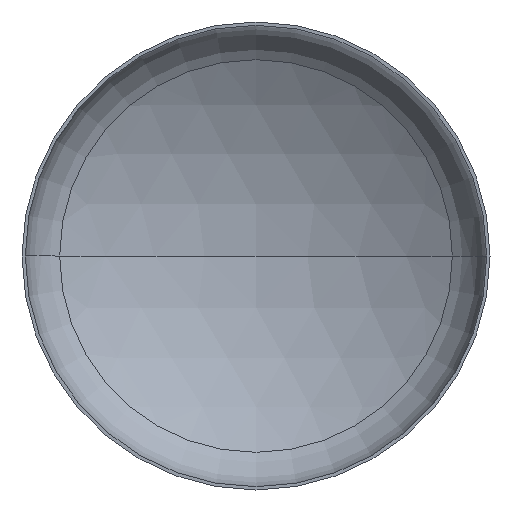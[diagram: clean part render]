
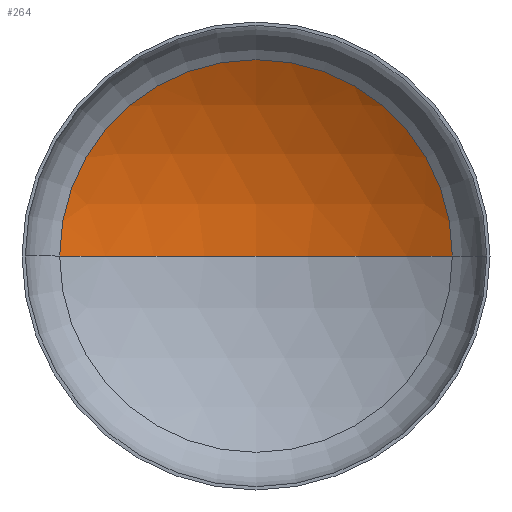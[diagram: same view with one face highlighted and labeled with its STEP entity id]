
A CAD part, front view. The second image highlights one B-rep face of the part: STEP entity #264.
In plain terms, the highlighted spherical face has radius 2720 mm.
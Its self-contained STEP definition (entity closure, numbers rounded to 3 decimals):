
#10 = AXIS2_PLACEMENT_3D ( 'NONE', #158, #114, #159 ) ;
#12 = AXIS2_PLACEMENT_3D ( 'NONE', #172, #221, #311 ) ;
#32 = VERTEX_POINT ( 'NONE', #291 ) ;
#39 = VERTEX_POINT ( 'NONE', #260 ) ;
#43 = AXIS2_PLACEMENT_3D ( 'NONE', #282, #267, #254 ) ;
#62 = ORIENTED_EDGE ( 'NONE', *, *, #372, .T. ) ;
#65 = AXIS2_PLACEMENT_3D ( 'NONE', #207, #210, #212 ) ;
#84 = CIRCLE ( 'NONE', #10, 2720. ) ;
#104 = ORIENTED_EDGE ( 'NONE', *, *, #375, .F. ) ;
#106 = VERTEX_POINT ( 'NONE', #328 ) ;
#114 = DIRECTION ( 'NONE',  ( 0., 0., 1. ) ) ;
#117 = EDGE_CURVE ( 'NONE', #39, #32, #303, .T. ) ;
#123 = ORIENTED_EDGE ( 'NONE', *, *, #117, .T. ) ;
#158 = CARTESIAN_POINT ( 'NONE',  ( 0., -1794.017, 0. ) ) ;
#159 = DIRECTION ( 'NONE',  ( 1., 0., 0. ) ) ;
#161 = SPHERICAL_SURFACE ( 'NONE', #43, 2720. ) ;
#172 = CARTESIAN_POINT ( 'NONE',  ( 0., -1794.017, 0. ) ) ;
#205 = EDGE_LOOP ( 'NONE', ( #104, #62, #123 ) ) ;
#207 = CARTESIAN_POINT ( 'NONE',  ( 0., 522.031, 0. ) ) ;
#210 = DIRECTION ( 'NONE',  ( 0., -1., 0. ) ) ;
#212 = DIRECTION ( 'NONE',  ( 1., 0., 0. ) ) ;
#221 = DIRECTION ( 'NONE',  ( 0., 0., -1. ) ) ;
#254 = DIRECTION ( 'NONE',  ( -1., 0., 0. ) ) ;
#260 = CARTESIAN_POINT ( 'NONE',  ( 1426.296, 522.031, 0. ) ) ;
#264 = ADVANCED_FACE ( 'NONE', ( #289 ), #161, .F. ) ;
#265 = CIRCLE ( 'NONE', #12, 2720. ) ;
#267 = DIRECTION ( 'NONE',  ( 0., 0., -1. ) ) ;
#282 = CARTESIAN_POINT ( 'NONE',  ( 0., -1794.017, 0. ) ) ;
#289 = FACE_OUTER_BOUND ( 'NONE', #205, .T. ) ;
#291 = CARTESIAN_POINT ( 'NONE',  ( -1426.296, 522.031, 0. ) ) ;
#303 = CIRCLE ( 'NONE', #65, 1426.296 ) ;
#311 = DIRECTION ( 'NONE',  ( -1., 0., 0. ) ) ;
#328 = CARTESIAN_POINT ( 'NONE',  ( 0., 925.983, 0. ) ) ;
#372 = EDGE_CURVE ( 'NONE', #106, #39, #265, .T. ) ;
#375 = EDGE_CURVE ( 'NONE', #106, #32, #84, .T. ) ;
